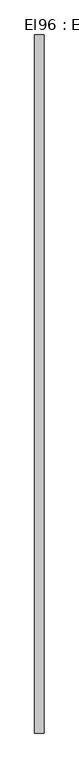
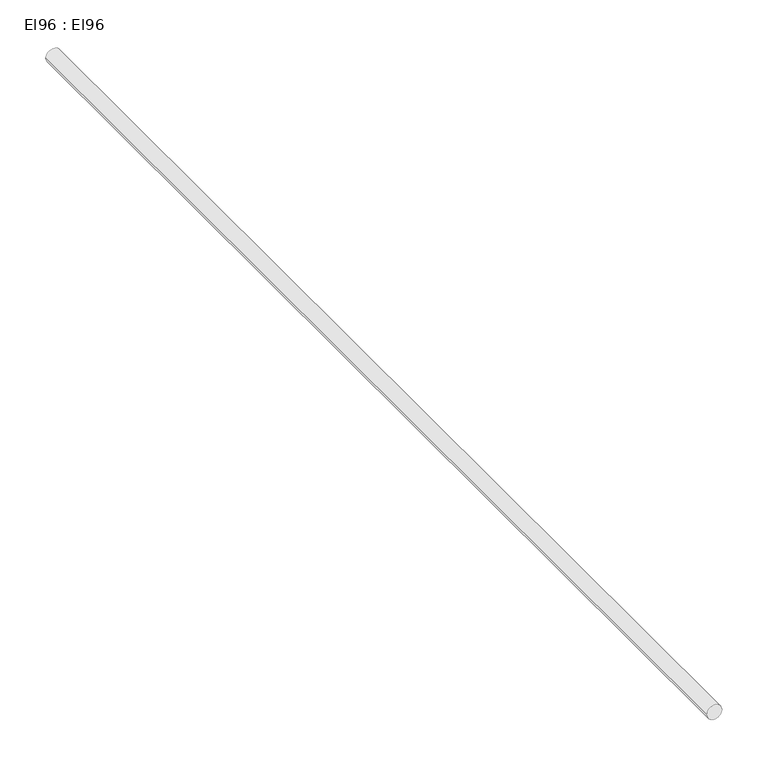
"""IFC4 building model written with IfcOpenShell, lengths in millimetres: cable carrier segment geometry, El96 : El96."""

from ifc_helpers import new_model, si_unit, point, frame, frame_2d, origin, place, context, project, spatial, circle_curve, trimmed, segment, composite_curve, outline, extrude, source, transform, mapped, element, save


def el96_el96_8df2dc16(model_context):
    return source(origin(), model_context, "Body", "SweptSolid", [
        extrude(outline(composite_curve([segment(trimmed(circle_curve(frame_2d((2950.0, 27635.0)), 9.5), [point((2950.0, 27625.5))], [point((2950.0, 27644.5))], False, "CARTESIAN"), True, "CONTINUOUS"), segment(trimmed(circle_curve(frame_2d((2950.0, 27635.0)), 9.5), [point((2950.0, 27644.5))], [point((2950.0, 27625.5))], False, "CARTESIAN"), True, "CONTINUOUS")], self_intersect=False)), frame((0.0, 16189.645, 0.0), z_axis=(0.0, 1.0, 0.0), x_axis=(0.0, 0.0, 1.0)), (0.0, 0.0, 1.0), 1436.71),
    ])


if __name__ == "__main__":
    model = new_model("IFC4")
    model_context = context("Model", 3, world=origin())
    ifc_project = project(units=[si_unit("LENGTHUNIT", "METRE", prefix="MILLI")], contexts=[model_context])
    site = spatial("IfcSite", under=ifc_project)
    building = spatial("IfcBuilding", under=site)
    placement = place(None, origin())
    el96_el96_shape = el96_el96_8df2dc16(model_context)
    element("IfcCableCarrierSegment", 1, ObjectType="El96 : El96", at=placement, inside=building, context=model_context, shape_type="MappedRepresentation", body=[
        mapped(el96_el96_shape, transform((0.0, 0.0, 0.0), x_axis=(1.0, 0.0, 0.0), y_axis=(0.0, 1.0, 0.0), z_axis=(0.0, 0.0, 1.0))),
    ])
    save(model, "model.ifc")
